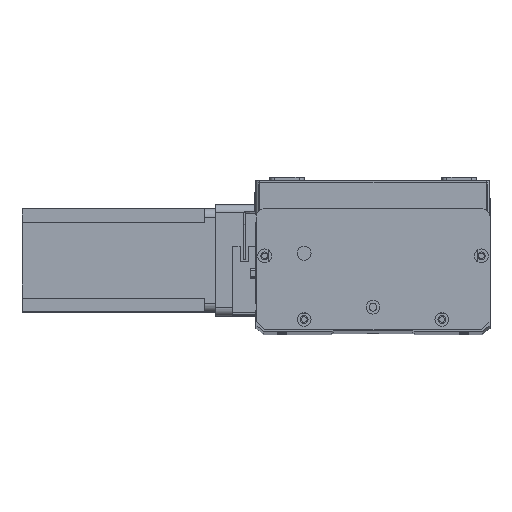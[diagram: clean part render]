
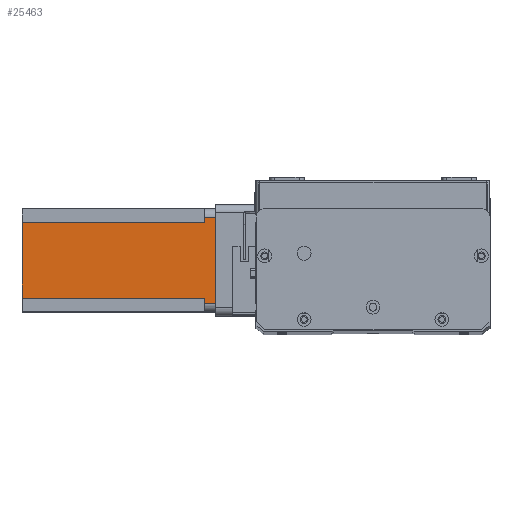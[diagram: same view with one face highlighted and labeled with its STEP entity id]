
A CAD part, top view. The second image highlights one B-rep face of the part: STEP entity #25463.
In plain terms, the highlighted planar face has unit normal (0, 0, 1) as drawn and (0, -1, 0) by its records, which use the part's own axes.
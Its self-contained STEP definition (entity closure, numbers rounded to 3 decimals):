
#11 = CARTESIAN_POINT ( 'NONE',  ( 0., 0., -112.5 ) ) ;
#1109 = VERTEX_POINT ( 'NONE', #15887 ) ;
#1698 = DIRECTION ( 'NONE',  ( 1., 0., 0. ) ) ;
#1958 = CARTESIAN_POINT ( 'NONE',  ( 5., 0., -6.5 ) ) ;
#1979 = VERTEX_POINT ( 'NONE', #1958 ) ;
#2062 = ORIENTED_EDGE ( 'NONE', *, *, #24967, .F. ) ;
#2366 = LINE ( 'NONE', #13665, #13631 ) ;
#3789 = VERTEX_POINT ( 'NONE', #10089 ) ;
#3822 = VECTOR ( 'NONE', #5938, 1000. ) ;
#4010 = VECTOR ( 'NONE', #7786, 1000. ) ;
#5455 = LINE ( 'NONE', #22283, #6057 ) ;
#5938 = DIRECTION ( 'NONE',  ( 1., 0., 0. ) ) ;
#6057 = VECTOR ( 'NONE', #8314, 1000. ) ;
#6217 = ORIENTED_EDGE ( 'NONE', *, *, #8603, .T. ) ;
#6286 = CARTESIAN_POINT ( 'NONE',  ( 0., 0., -112.5 ) ) ;
#6485 = CARTESIAN_POINT ( 'NONE',  ( 52., 0., -112.5 ) ) ;
#6592 = CARTESIAN_POINT ( 'NONE',  ( 8., 0., -112.5 ) ) ;
#7359 = LINE ( 'NONE', #7864, #22035 ) ;
#7389 = LINE ( 'NONE', #6592, #22707 ) ;
#7786 = DIRECTION ( 'NONE',  ( -1., 0., 0. ) ) ;
#7864 = CARTESIAN_POINT ( 'NONE',  ( 52., 0., -112.5 ) ) ;
#8047 = VERTEX_POINT ( 'NONE', #6485 ) ;
#8313 = DIRECTION ( 'NONE',  ( 0., 0., -1. ) ) ;
#8314 = DIRECTION ( 'NONE',  ( 1., 0., 0. ) ) ;
#8511 = ORIENTED_EDGE ( 'NONE', *, *, #15374, .F. ) ;
#8603 = EDGE_CURVE ( 'NONE', #17971, #8047, #9757, .T. ) ;
#8925 = LINE ( 'NONE', #23029, #9549 ) ;
#9054 = DIRECTION ( 'NONE',  ( 0., 0., -1. ) ) ;
#9549 = VECTOR ( 'NONE', #9054, 1000. ) ;
#9757 = LINE ( 'NONE', #11, #3822 ) ;
#9797 = ORIENTED_EDGE ( 'NONE', *, *, #16783, .T. ) ;
#10085 = CARTESIAN_POINT ( 'NONE',  ( 5., 0., 0. ) ) ;
#10089 = CARTESIAN_POINT ( 'NONE',  ( 55., 0., -6.5 ) ) ;
#10611 = DIRECTION ( 'NONE',  ( 0., 0., 1. ) ) ;
#10961 = ORIENTED_EDGE ( 'NONE', *, *, #24669, .F. ) ;
#11229 = VERTEX_POINT ( 'NONE', #12774 ) ;
#11306 = AXIS2_PLACEMENT_3D ( 'NONE', #6286, #20277, #8313 ) ;
#11865 = DIRECTION ( 'NONE',  ( 0., 0., -1. ) ) ;
#12130 = PLANE ( 'NONE',  #11306 ) ;
#12548 = VECTOR ( 'NONE', #16350, 1000. ) ;
#12716 = EDGE_CURVE ( 'NONE', #1109, #1979, #24625, .T. ) ;
#12774 = CARTESIAN_POINT ( 'NONE',  ( 52., 0., -6.5 ) ) ;
#12896 = CARTESIAN_POINT ( 'NONE',  ( 8., 0., -112.5 ) ) ;
#13631 = VECTOR ( 'NONE', #1698, 1000. ) ;
#13665 = CARTESIAN_POINT ( 'NONE',  ( 0., 0., 0. ) ) ;
#15374 = EDGE_CURVE ( 'NONE', #11229, #8047, #7359, .T. ) ;
#15820 = VERTEX_POINT ( 'NONE', #17781 ) ;
#15887 = CARTESIAN_POINT ( 'NONE',  ( 8., 0., -6.5 ) ) ;
#16350 = DIRECTION ( 'NONE',  ( 0., 0., 1. ) ) ;
#16579 = VERTEX_POINT ( 'NONE', #10085 ) ;
#16783 = EDGE_CURVE ( 'NONE', #16579, #1979, #8925, .T. ) ;
#17189 = EDGE_CURVE ( 'NONE', #11229, #3789, #5455, .T. ) ;
#17781 = CARTESIAN_POINT ( 'NONE',  ( 55., 0., 0. ) ) ;
#17858 = LINE ( 'NONE', #22311, #12548 ) ;
#17971 = VERTEX_POINT ( 'NONE', #12896 ) ;
#18429 = EDGE_CURVE ( 'NONE', #3789, #15820, #17858, .T. ) ;
#19001 = ORIENTED_EDGE ( 'NONE', *, *, #18429, .T. ) ;
#20277 = DIRECTION ( 'NONE',  ( 0., -1., 0. ) ) ;
#21769 = CARTESIAN_POINT ( 'NONE',  ( 8., 0., -6.5 ) ) ;
#22035 = VECTOR ( 'NONE', #11865, 1000. ) ;
#22283 = CARTESIAN_POINT ( 'NONE',  ( 52., 0., -6.5 ) ) ;
#22311 = CARTESIAN_POINT ( 'NONE',  ( 55., 0., -112.5 ) ) ;
#22707 = VECTOR ( 'NONE', #10611, 1000. ) ;
#23029 = CARTESIAN_POINT ( 'NONE',  ( 5., 0., -112.5 ) ) ;
#23311 = FACE_OUTER_BOUND ( 'NONE', #24578, .T. ) ;
#24374 = ORIENTED_EDGE ( 'NONE', *, *, #17189, .T. ) ;
#24578 = EDGE_LOOP ( 'NONE', ( #24374, #19001, #10961, #9797, #24671, #2062, #6217, #8511 ) ) ;
#24625 = LINE ( 'NONE', #21769, #4010 ) ;
#24669 = EDGE_CURVE ( 'NONE', #16579, #15820, #2366, .T. ) ;
#24671 = ORIENTED_EDGE ( 'NONE', *, *, #12716, .F. ) ;
#24967 = EDGE_CURVE ( 'NONE', #17971, #1109, #7389, .T. ) ;
#25463 = ADVANCED_FACE ( 'NONE', ( #23311 ), #12130, .T. ) ;
